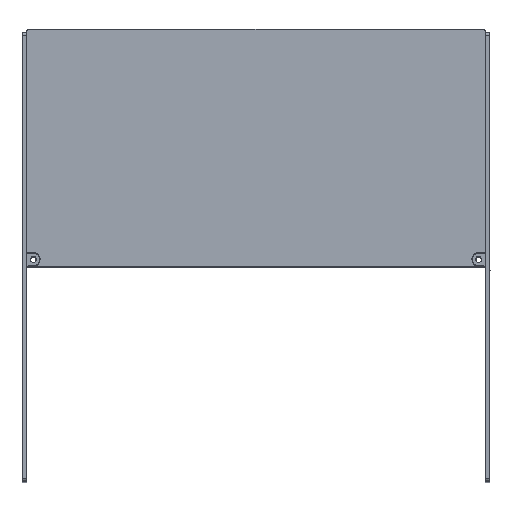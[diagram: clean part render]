
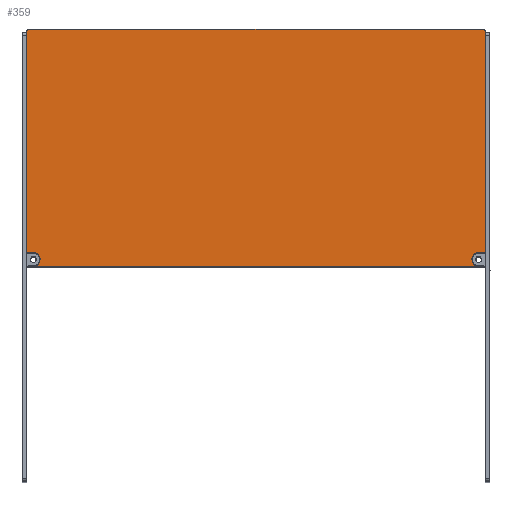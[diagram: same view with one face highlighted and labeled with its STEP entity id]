
A CAD part, top view. The second image highlights one B-rep face of the part: STEP entity #359.
In plain terms, the highlighted planar face has unit normal (0, 0, 1).
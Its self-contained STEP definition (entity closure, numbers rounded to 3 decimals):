
#359=ADVANCED_FACE('',(#827,#505,#506),#6234,.T.);
#505=FACE_BOUND('',#1279,.T.);
#506=FACE_BOUND('',#1280,.T.);
#827=FACE_OUTER_BOUND('',#1278,.T.);
#1278=EDGE_LOOP('',(#2881,#2882,#2883,#2884,#2885,#2886,#2887,#2888));
#1279=EDGE_LOOP('',(#2889,#2890));
#1280=EDGE_LOOP('',(#2891,#2892));
#2881=ORIENTED_EDGE('',*,*,#4111,.T.);
#2882=ORIENTED_EDGE('',*,*,#4087,.T.);
#2883=ORIENTED_EDGE('',*,*,#4108,.T.);
#2884=ORIENTED_EDGE('',*,*,#4088,.T.);
#2885=ORIENTED_EDGE('',*,*,#4100,.T.);
#2886=ORIENTED_EDGE('',*,*,#4089,.T.);
#2887=ORIENTED_EDGE('',*,*,#4105,.T.);
#2888=ORIENTED_EDGE('',*,*,#4084,.F.);
#2889=ORIENTED_EDGE('',*,*,#4115,.T.);
#2890=ORIENTED_EDGE('',*,*,#4093,.T.);
#2891=ORIENTED_EDGE('',*,*,#4118,.T.);
#2892=ORIENTED_EDGE('',*,*,#4096,.T.);
#4084=EDGE_CURVE('',#5742,#5743,#5162,.T.);
#4087=EDGE_CURVE('',#5745,#5746,#5165,.T.);
#4088=EDGE_CURVE('',#5747,#5748,#5166,.T.);
#4089=EDGE_CURVE('',#5749,#5750,#5167,.T.);
#4093=EDGE_CURVE('',#5751,#5752,#4679,.T.);
#4096=EDGE_CURVE('',#5753,#5754,#4682,.T.);
#4100=EDGE_CURVE('',#5748,#5749,#4685,.T.);
#4105=EDGE_CURVE('',#5750,#5743,#4688,.T.);
#4108=EDGE_CURVE('',#5746,#5747,#4689,.T.);
#4111=EDGE_CURVE('',#5742,#5745,#4691,.T.);
#4115=EDGE_CURVE('',#5752,#5751,#4695,.T.);
#4118=EDGE_CURVE('',#5754,#5753,#4698,.T.);
#4679=(
BOUNDED_CURVE()
B_SPLINE_CURVE(2,(#11402,#11403,#11404,#11405,#11406),.UNSPECIFIED.,.F.,
 .F.)
B_SPLINE_CURVE_WITH_KNOTS((3,2,3),(-8.,-4.,0.),
 .UNSPECIFIED.)
CURVE()
GEOMETRIC_REPRESENTATION_ITEM()
RATIONAL_B_SPLINE_CURVE((1.,0.707,1.,0.707,1.))
REPRESENTATION_ITEM('')
);
#4682=(
BOUNDED_CURVE()
B_SPLINE_CURVE(2,(#11414,#11415,#11416,#11417,#11418),.UNSPECIFIED.,.F.,
 .F.)
B_SPLINE_CURVE_WITH_KNOTS((3,2,3),(-8.,-4.,
0.),.UNSPECIFIED.)
CURVE()
GEOMETRIC_REPRESENTATION_ITEM()
RATIONAL_B_SPLINE_CURVE((1.,0.707,1.,0.707,1.))
REPRESENTATION_ITEM('')
);
#4685=(
BOUNDED_CURVE()
B_SPLINE_CURVE(2,(#11428,#11429,#11430),.UNSPECIFIED.,.F.,.F.)
B_SPLINE_CURVE_WITH_KNOTS((3,3),(-10.,0.),.UNSPECIFIED.)
CURVE()
GEOMETRIC_REPRESENTATION_ITEM()
RATIONAL_B_SPLINE_CURVE((1.,0.707,1.))
REPRESENTATION_ITEM('')
);
#4688=(
BOUNDED_CURVE()
B_SPLINE_CURVE(2,(#11441,#11442,#11443),.UNSPECIFIED.,.F.,.F.)
B_SPLINE_CURVE_WITH_KNOTS((3,3),(-10.,0.),.UNSPECIFIED.)
CURVE()
GEOMETRIC_REPRESENTATION_ITEM()
RATIONAL_B_SPLINE_CURVE((1.,0.707,1.))
REPRESENTATION_ITEM('')
);
#4689=(
BOUNDED_CURVE()
B_SPLINE_CURVE(2,(#11448,#11449,#11450),.UNSPECIFIED.,.F.,.F.)
B_SPLINE_CURVE_WITH_KNOTS((3,3),(-4.,0.),.UNSPECIFIED.)
CURVE()
GEOMETRIC_REPRESENTATION_ITEM()
RATIONAL_B_SPLINE_CURVE((1.,0.707,1.))
REPRESENTATION_ITEM('')
);
#4691=(
BOUNDED_CURVE()
B_SPLINE_CURVE(2,(#11456,#11457,#11458),.UNSPECIFIED.,.F.,.F.)
B_SPLINE_CURVE_WITH_KNOTS((3,3),(-4.,0.),.UNSPECIFIED.)
CURVE()
GEOMETRIC_REPRESENTATION_ITEM()
RATIONAL_B_SPLINE_CURVE((1.,0.707,1.))
REPRESENTATION_ITEM('')
);
#4695=(
BOUNDED_CURVE()
B_SPLINE_CURVE(2,(#11469,#11470,#11471,#11472,#11473),.UNSPECIFIED.,.F.,
 .F.)
B_SPLINE_CURVE_WITH_KNOTS((3,2,3),(-8.,-4.,0.),
 .UNSPECIFIED.)
CURVE()
GEOMETRIC_REPRESENTATION_ITEM()
RATIONAL_B_SPLINE_CURVE((1.,0.707,1.,0.707,1.))
REPRESENTATION_ITEM('')
);
#4698=(
BOUNDED_CURVE()
B_SPLINE_CURVE(2,(#11481,#11482,#11483,#11484,#11485),.UNSPECIFIED.,.F.,
 .F.)
B_SPLINE_CURVE_WITH_KNOTS((3,2,3),(-8.,-4.,
0.),.UNSPECIFIED.)
CURVE()
GEOMETRIC_REPRESENTATION_ITEM()
RATIONAL_B_SPLINE_CURVE((1.,0.707,1.,0.707,1.))
REPRESENTATION_ITEM('')
);
#5162=B_SPLINE_CURVE_WITH_KNOTS('',1,(#11384,#11385),.UNSPECIFIED.,.F.,
 .F.,(2,2),(0.,150.),.UNSPECIFIED.);
#5165=B_SPLINE_CURVE_WITH_KNOTS('',1,(#11390,#11391),.UNSPECIFIED.,.F.,
 .F.,(2,2),(0.,300.),.UNSPECIFIED.);
#5166=B_SPLINE_CURVE_WITH_KNOTS('',1,(#11392,#11393),.UNSPECIFIED.,.F.,
 .F.,(2,2),(0.,150.),.UNSPECIFIED.);
#5167=B_SPLINE_CURVE_WITH_KNOTS('',1,(#11394,#11395),.UNSPECIFIED.,.F.,
 .F.,(2,2),(0.,294.),.UNSPECIFIED.);
#5742=VERTEX_POINT('',#11359);
#5743=VERTEX_POINT('',#11360);
#5745=VERTEX_POINT('',#11362);
#5746=VERTEX_POINT('',#11363);
#5747=VERTEX_POINT('',#11364);
#5748=VERTEX_POINT('',#11365);
#5749=VERTEX_POINT('',#11366);
#5750=VERTEX_POINT('',#11367);
#5751=VERTEX_POINT('',#11368);
#5752=VERTEX_POINT('',#11369);
#5753=VERTEX_POINT('',#11370);
#5754=VERTEX_POINT('',#11371);
#6234=PLANE('',#6591);
#6591=AXIS2_PLACEMENT_3D('',#11345,#6891,$);
#6891=DIRECTION('',(0.,0.,1.));
#11345=CARTESIAN_POINT('',(-187.934,-28.356,499.5));
#11359=CARTESIAN_POINT('',(146.478,142.356,499.5));
#11360=CARTESIAN_POINT('',(146.478,-7.644,499.5));
#11362=CARTESIAN_POINT('',(144.478,144.356,499.5));
#11363=CARTESIAN_POINT('',(-155.522,144.356,499.5));
#11364=CARTESIAN_POINT('',(-157.522,142.356,499.5));
#11365=CARTESIAN_POINT('',(-157.522,-7.644,499.5));
#11366=CARTESIAN_POINT('',(-152.522,-12.644,499.5));
#11367=CARTESIAN_POINT('',(141.478,-12.644,499.5));
#11368=CARTESIAN_POINT('',(-151.023,-8.194,499.5));
#11369=CARTESIAN_POINT('',(-155.022,-8.093,499.5));
#11370=CARTESIAN_POINT('',(139.979,-8.194,499.5));
#11371=CARTESIAN_POINT('',(143.977,-8.093,499.5));
#11384=CARTESIAN_POINT('',(146.478,142.356,499.5));
#11385=CARTESIAN_POINT('',(146.478,-7.644,499.5));
#11390=CARTESIAN_POINT('',(144.478,144.356,499.5));
#11391=CARTESIAN_POINT('',(-155.522,144.356,499.5));
#11392=CARTESIAN_POINT('',(-157.522,142.356,499.5));
#11393=CARTESIAN_POINT('',(-157.522,-7.644,499.5));
#11394=CARTESIAN_POINT('',(-152.522,-12.644,499.5));
#11395=CARTESIAN_POINT('',(141.478,-12.644,499.5));
#11402=CARTESIAN_POINT('',(-151.023,-8.194,499.5));
#11403=CARTESIAN_POINT('',(-151.073,-10.194,499.5));
#11404=CARTESIAN_POINT('',(-153.073,-10.143,499.5));
#11405=CARTESIAN_POINT('',(-155.072,-10.093,499.5));
#11406=CARTESIAN_POINT('',(-155.022,-8.093,499.5));
#11414=CARTESIAN_POINT('',(139.979,-8.194,499.5));
#11415=CARTESIAN_POINT('',(139.928,-6.195,499.5));
#11416=CARTESIAN_POINT('',(141.928,-6.144,499.5));
#11417=CARTESIAN_POINT('',(143.927,-6.094,499.5));
#11418=CARTESIAN_POINT('',(143.977,-8.093,499.5));
#11428=CARTESIAN_POINT('',(-157.522,-7.644,499.5));
#11429=CARTESIAN_POINT('',(-157.522,-12.644,499.5));
#11430=CARTESIAN_POINT('',(-152.522,-12.644,499.5));
#11441=CARTESIAN_POINT('',(141.478,-12.644,499.5));
#11442=CARTESIAN_POINT('',(146.478,-12.644,499.5));
#11443=CARTESIAN_POINT('',(146.478,-7.644,499.5));
#11448=CARTESIAN_POINT('',(-155.522,144.356,499.5));
#11449=CARTESIAN_POINT('',(-157.522,144.356,499.5));
#11450=CARTESIAN_POINT('',(-157.522,142.356,499.5));
#11456=CARTESIAN_POINT('',(146.478,142.356,499.5));
#11457=CARTESIAN_POINT('',(146.478,144.356,499.5));
#11458=CARTESIAN_POINT('',(144.478,144.356,499.5));
#11469=CARTESIAN_POINT('',(-155.022,-8.093,499.5));
#11470=CARTESIAN_POINT('',(-154.971,-6.094,499.5));
#11471=CARTESIAN_POINT('',(-152.972,-6.144,499.5));
#11472=CARTESIAN_POINT('',(-150.972,-6.195,499.5));
#11473=CARTESIAN_POINT('',(-151.023,-8.194,499.5));
#11481=CARTESIAN_POINT('',(143.977,-8.093,499.5));
#11482=CARTESIAN_POINT('',(144.028,-10.093,499.5));
#11483=CARTESIAN_POINT('',(142.028,-10.143,499.5));
#11484=CARTESIAN_POINT('',(140.029,-10.194,499.5));
#11485=CARTESIAN_POINT('',(139.979,-8.194,499.5));
